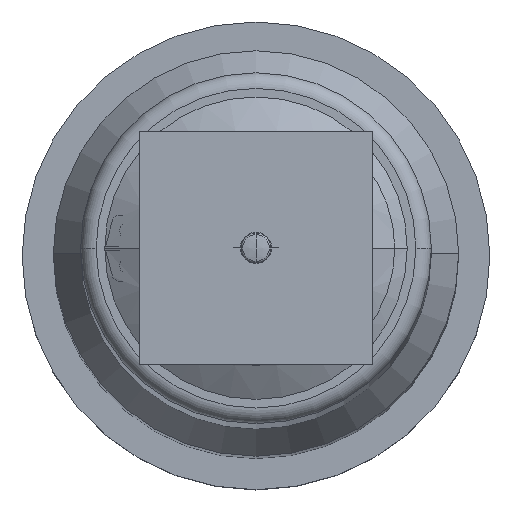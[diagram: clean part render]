
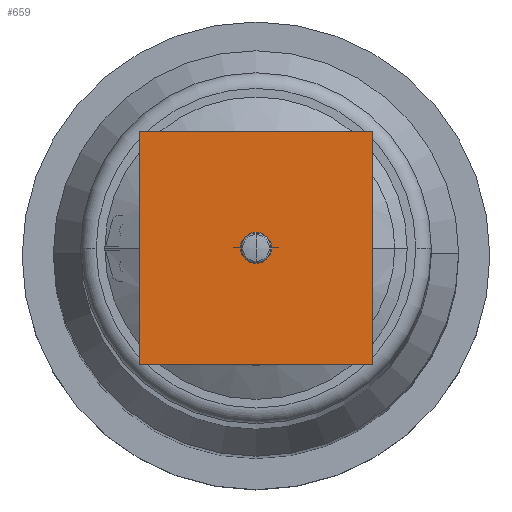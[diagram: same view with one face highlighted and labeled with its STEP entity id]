
A CAD part, top view. The second image highlights one B-rep face of the part: STEP entity #659.
In plain terms, the highlighted planar face has unit normal (0, 0, 1).
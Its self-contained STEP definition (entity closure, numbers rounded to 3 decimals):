
#448 = CARTESIAN_POINT ( 'NONE',  ( -15., 15., 615. ) ) ;
#659 = ADVANCED_FACE ( 'NONE', ( #7635 ), #9739, .T. ) ;
#793 = VERTEX_POINT ( 'NONE', #448 ) ;
#918 = ORIENTED_EDGE ( 'NONE', *, *, #6577, .T. ) ;
#976 = LINE ( 'NONE', #5007, #3063 ) ;
#983 = EDGE_CURVE ( 'NONE', #793, #7880, #11560, .T. ) ;
#1673 = EDGE_CURVE ( 'NONE', #5415, #793, #3255, .T. ) ;
#1835 = DIRECTION ( 'NONE',  ( 1., 0., 0. ) ) ;
#2496 = ORIENTED_EDGE ( 'NONE', *, *, #5108, .T. ) ;
#2605 = ORIENTED_EDGE ( 'NONE', *, *, #983, .T. ) ;
#2920 = AXIS2_PLACEMENT_3D ( 'NONE', #3034, #8993, #6128 ) ;
#3034 = CARTESIAN_POINT ( 'NONE',  ( 0., 0., 615. ) ) ;
#3063 = VECTOR ( 'NONE', #1835, 1000. ) ;
#3255 = LINE ( 'NONE', #4204, #11564 ) ;
#3562 = VECTOR ( 'NONE', #10667, 1000. ) ;
#3855 = VECTOR ( 'NONE', #9410, 1000. ) ;
#4204 = CARTESIAN_POINT ( 'NONE',  ( -15., 15., 615. ) ) ;
#4242 = DIRECTION ( 'NONE',  ( -1., 0., 0. ) ) ;
#5007 = CARTESIAN_POINT ( 'NONE',  ( -15., -15., 615. ) ) ;
#5037 = CARTESIAN_POINT ( 'NONE',  ( 15., -15., 615. ) ) ;
#5108 = EDGE_CURVE ( 'NONE', #8460, #5415, #8085, .T. ) ;
#5415 = VERTEX_POINT ( 'NONE', #12023 ) ;
#6128 = DIRECTION ( 'NONE',  ( 1., 0., 0. ) ) ;
#6577 = EDGE_CURVE ( 'NONE', #7880, #8460, #976, .T. ) ;
#6758 = ORIENTED_EDGE ( 'NONE', *, *, #1673, .T. ) ;
#7570 = CARTESIAN_POINT ( 'NONE',  ( -15., -15., 615. ) ) ;
#7635 = FACE_OUTER_BOUND ( 'NONE', #8105, .T. ) ;
#7880 = VERTEX_POINT ( 'NONE', #7570 ) ;
#8085 = LINE ( 'NONE', #12415, #3562 ) ;
#8105 = EDGE_LOOP ( 'NONE', ( #2605, #918, #2496, #6758 ) ) ;
#8460 = VERTEX_POINT ( 'NONE', #5037 ) ;
#8556 = CARTESIAN_POINT ( 'NONE',  ( -15., 15., 615. ) ) ;
#8993 = DIRECTION ( 'NONE',  ( 0., 0., 1. ) ) ;
#9410 = DIRECTION ( 'NONE',  ( 0., -1., 0. ) ) ;
#9739 = PLANE ( 'NONE',  #2920 ) ;
#10667 = DIRECTION ( 'NONE',  ( 0., 1., 0. ) ) ;
#11560 = LINE ( 'NONE', #8556, #3855 ) ;
#11564 = VECTOR ( 'NONE', #4242, 1000. ) ;
#12023 = CARTESIAN_POINT ( 'NONE',  ( 15., 15., 615. ) ) ;
#12415 = CARTESIAN_POINT ( 'NONE',  ( 15., 15., 615. ) ) ;
